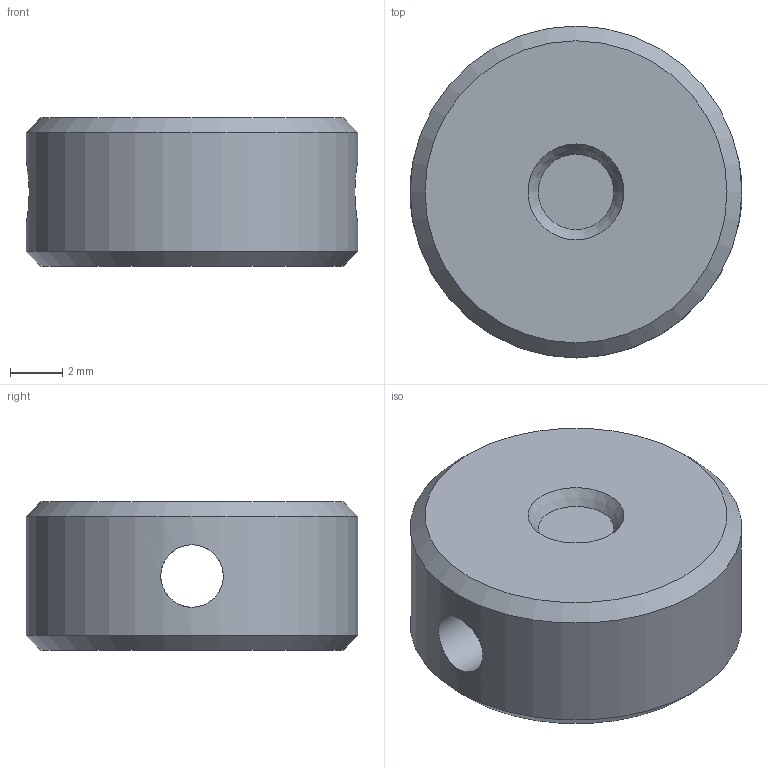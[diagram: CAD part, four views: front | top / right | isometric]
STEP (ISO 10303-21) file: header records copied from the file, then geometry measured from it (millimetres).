
FILE_DESCRIPTION(/* description */ (''),/* implementation_level */ '2;1');
FILE_NAME(/* name */ 'Bolt Carrier Spring Plate.stp',/* time_stamp */ '2026-07-25T08:38:42-06:00',/* author */ (''),/* organization */ (''),/* preprocessor_version */ 'ST-DEVELOPER v18.102',/* originating_system */ 'SIEMENS PLM Software NX 2027',/* authorisation */ '');
FILE_SCHEMA (('AUTOMOTIVE_DESIGN { 1 0 10303 214 3 1 1 1 }'));
Length unit declared in the file: inch
Products named in the file (1): Bolt Carrier Spring Plate
Bounding box: 12.66 x 12.66 x 5.66 mm (x, y, z)
Volume: 638.7 mm3; surface area: 537.7 mm2
Topology: 1 solids, 1 shells, 8 faces, 15 edges, 9 vertices
Faces by surface type: plane 3, cone 3, cylinder 2
Full cylindrical faces by diameter (mm): 2.381 x1, 12.656 x1
Entity records: 302 total; most frequent: CARTESIAN_POINT 139, DIRECTION 30, EDGE_LOOP 16, ORIENTED_EDGE 16, AXIS2_PLACEMENT_3D 15, FACE_BOUND 14, ADVANCED_FACE 8, VERTEX_POINT 8
